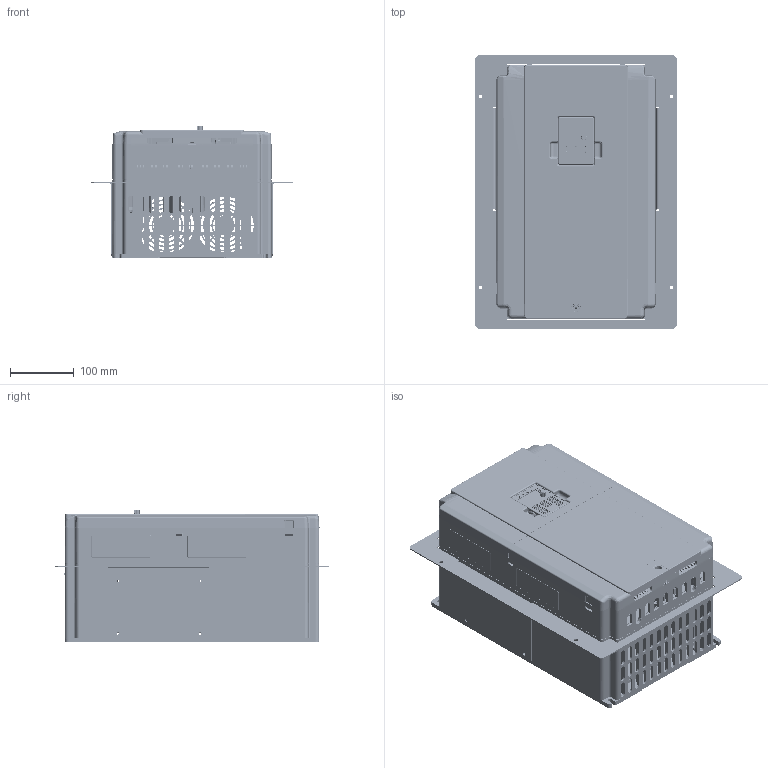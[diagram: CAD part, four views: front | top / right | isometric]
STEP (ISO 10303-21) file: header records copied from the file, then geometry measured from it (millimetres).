
FILE_DESCRIPTION (( 'STEP AP203' ), '1' );
FILE_NAME ('UMI-0[300~370]EE-B1.STEP', '2020-03-26T16:32:32', ( '' ), ( '' ), 'SwSTEP 2.0', 'SolidWorks 2017', '' );
FILE_SCHEMA (( 'CONFIG_CONTROL_DESIGN' ));
Products named in the file (37): PRT-007; PRT-011; PRT-008; PRT-014; PRT-010; PRT-001; PRT-003; PRT-006; PRT-005; PRT-013; PRT-009; PRT-004; PRT-015; PRT-016; ASM_001; PRT-012; PRT-002; UMI-0[300~370]EE-B1
Assembly tree (20 placements, depth 3):
  PRT-011
  PRT-010
  PRT-014
  PRT-003
  PRT-006
Bounding box: 316 x 430 x 208.35 mm (x, y, z)
Volume: 1840926.7 mm3; surface area: 1804254.6 mm2
Topology: 17 solids, 20 shells, 9542 faces, 27441 edges, 18000 vertices
Faces by surface type: plane 6403, cylinder 2205, cone 542, bspline 386, torus 6
Entity records: 356849 total; most frequent: CARTESIAN_POINT 113766, ORIENTED_EDGE 53845, DIRECTION 43948, EDGE_CURVE 26993, VECTOR 19000, LINE 19000, VERTEX_POINT 17742, AXIS2_PLACEMENT_3D 12474
